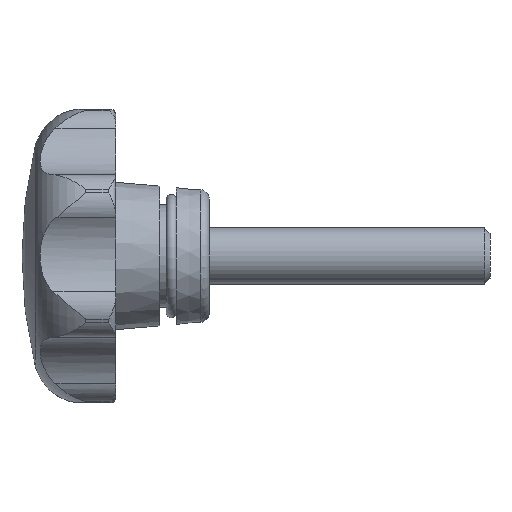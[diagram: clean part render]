
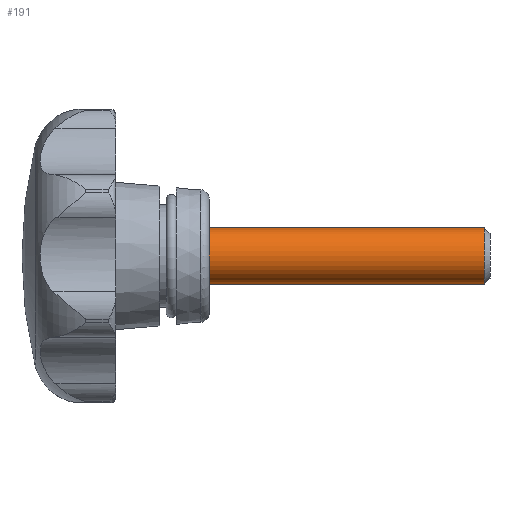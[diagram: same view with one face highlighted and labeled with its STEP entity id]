
A CAD part, left-side view. The second image highlights one B-rep face of the part: STEP entity #191.
In plain terms, the highlighted cylindrical face has radius 3 mm (diameter 6 mm), a full revolution.
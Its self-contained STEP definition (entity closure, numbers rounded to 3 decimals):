
#191 = ADVANCED_FACE( '', ( #399, #400 ), #401, .T. );
#399 = FACE_OUTER_BOUND( '', #793, .T. );
#400 = FACE_OUTER_BOUND( '', #794, .T. );
#401 = CYLINDRICAL_SURFACE( '', #795, 3. );
#793 = EDGE_LOOP( '', ( #1279 ) );
#794 = EDGE_LOOP( '', ( #1280 ) );
#795 = AXIS2_PLACEMENT_3D( '', #1281, #1282, #1283 );
#1279 = ORIENTED_EDGE( '', *, *, #2552, .F. );
#1280 = ORIENTED_EDGE( '', *, *, #2553, .T. );
#1281 = CARTESIAN_POINT( '', ( 0., -30., 0. ) );
#1282 = DIRECTION( '', ( 0., 1., 0. ) );
#1283 = DIRECTION( '', ( 0., 0., -1. ) );
#2552 = EDGE_CURVE( '', #3036, #3036, #3037, .T. );
#2553 = EDGE_CURVE( '', #3038, #3038, #3039, .T. );
#3036 = VERTEX_POINT( '', #3894 );
#3037 = CIRCLE( '', #3895, 3. );
#3038 = VERTEX_POINT( '', #3896 );
#3039 = CIRCLE( '', #3897, 3. );
#3894 = CARTESIAN_POINT( '', ( 0., -29.387, -3. ) );
#3895 = AXIS2_PLACEMENT_3D( '', #5757, #5758, #5759 );
#3896 = CARTESIAN_POINT( '', ( 0., 0., -3. ) );
#3897 = AXIS2_PLACEMENT_3D( '', #5760, #5761, #5762 );
#5757 = CARTESIAN_POINT( '', ( 0., -29.387, 0. ) );
#5758 = DIRECTION( '', ( 0., -1., 0. ) );
#5759 = DIRECTION( '', ( 0., 0., -1. ) );
#5760 = CARTESIAN_POINT( '', ( 0., 0., 0. ) );
#5761 = DIRECTION( '', ( 0., -1., 0. ) );
#5762 = DIRECTION( '', ( 0., 0., -1. ) );
